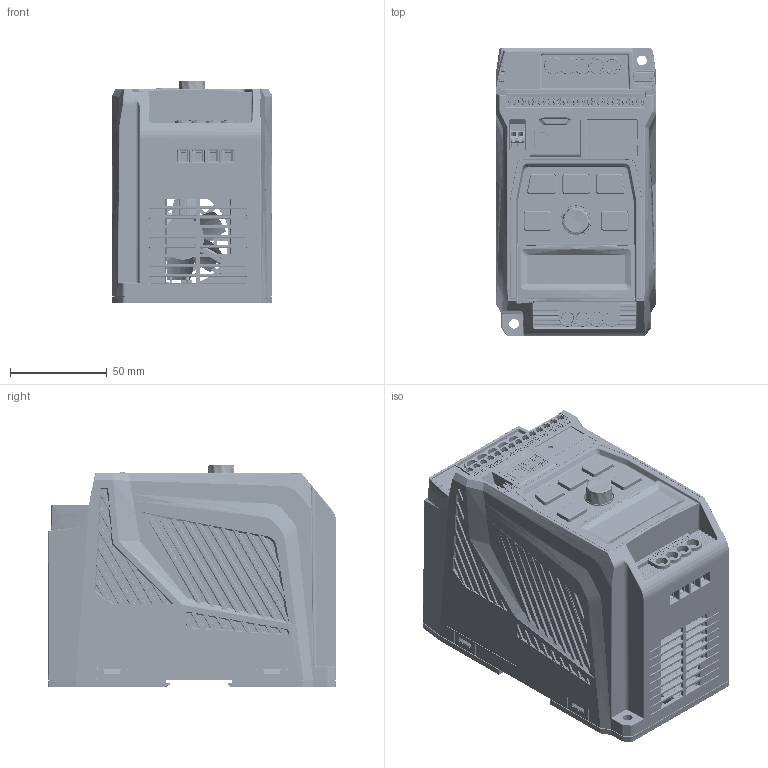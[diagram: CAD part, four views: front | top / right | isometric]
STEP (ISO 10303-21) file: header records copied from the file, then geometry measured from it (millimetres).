
FILE_DESCRIPTION(('STEP AP203'), '1');
FILE_NAME('NCI 0.4-2.2 2B', '2025-01-24T08:00:34', (' '), (' '), 'C3D Converter', 'C3D Toolkit', '');
FILE_SCHEMA(('CONFIG_CONTROL_DESIGN'));
Length unit declared in the file: millimetre
Products named in the file (1): it44886476toab
Bounding box: 83 x 149 x 115.09 mm (x, y, z)
Volume: 295670.6 mm3; surface area: 433297.5 mm2
Topology: 650 solids, 666 shells, 22515 faces, 58485 edges, 38015 vertices
Faces by surface type: plane 16465, cylinder 3789, bspline 1345, torus 505, cone 240, extrusion 105, sphere 66
Full cylindrical faces by diameter (mm): 0.5 x14, 0.508 x7, 0.6 x11, 0.635 x1, 0.65 x5, 0.75 x4, 0.762 x2, 0.8 x4, 0.889 x8, 0.9 x8, 1 x37, 1.016 x8, 1.1 x4, 1.27 x2, 1.3 x1, 1.4 x20, 1.5 x4, 2 x11, 2.3 x2, 2.5 x27, 2.54 x3, 3 x9, 3.1 x14, 3.2 x28, 3.3 x15, 3.5 x10, 3.7 x1, 4 x5, 4.1 x30, 4.2 x2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
Entity records: 1001501 total; most frequent: CARTESIAN_POINT 281118, ORIENTED_EDGE 115527, DIRECTION 99963, EDGE_CURVE 57779, VECTOR 44639, LINE 44534, VERTEX_POINT 37971, AXIS2_PLACEMENT_3D 27662
